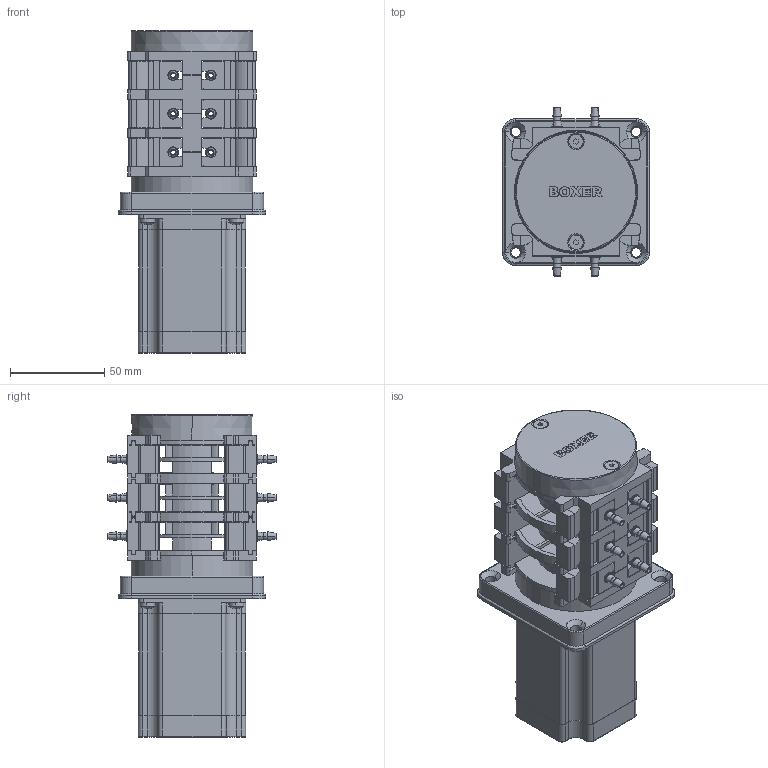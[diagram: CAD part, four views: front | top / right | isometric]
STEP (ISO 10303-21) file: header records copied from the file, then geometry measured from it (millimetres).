
FILE_DESCRIPTION (( 'STEP AP203' ), '1' );
FILE_NAME ('6343.100.STEP', '2018-10-22T12:38:53', ( '' ), ( '' ), 'SwSTEP 2.0', 'SolidWorks 2015', '' );
FILE_SCHEMA (( 'CONFIG_CONTROL_DESIGN' ));
Length unit declared in the file: millimetre
Products named in the file (1): 6343.100
Bounding box: 78 x 89.5 x 171 mm (x, y, z)
Surface area: 97594.7 mm2 (no closed solid volume)
Topology: 0 solids, 75 shells, 1179 faces, 4504 edges, 3260 vertices
Faces by surface type: plane 683, cylinder 327, cone 78, torus 62, bspline 21, sphere 8
Entity records: 48743 total; most frequent: CARTESIAN_POINT 10477, DIRECTION 8226, ORIENTED_EDGE 7066, EDGE_CURVE 4504, VERTEX_POINT 3260, VECTOR 2904, LINE 2904, AXIS2_PLACEMENT_3D 2661
